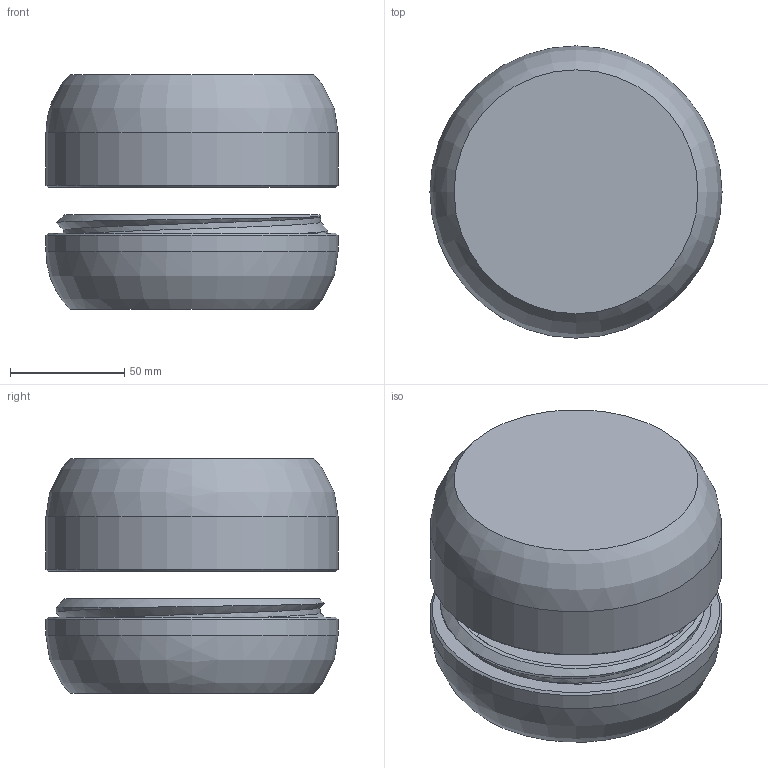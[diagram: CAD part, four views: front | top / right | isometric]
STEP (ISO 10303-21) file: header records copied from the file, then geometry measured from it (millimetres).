
FILE_DESCRIPTION(/* description */ (''),/* implementation_level */ '2;1');
FILE_NAME(/* name */ '',/* time_stamp */ '',/* author */ (''),/* organization */ (''),/* preprocessor_version */ 'ST-DEVELOPER v20',/* originating_system */ 'Autodesk Translation Framework v13.20.0.188',/* authorisation */ '');
FILE_SCHEMA (('AUTOMOTIVE_DESIGN { 1 0 10303 214 3 1 1 }'));
Length unit declared in the file: millimetre
Products named in the file (1): Game Parts Dish
Bounding box: 128 x 128 x 102.91 mm (x, y, z)
Volume: 195662.8 mm3; surface area: 113687.3 mm2
Topology: 2 solids, 2 shells, 38 faces, 89 edges, 59 vertices
Faces by surface type: bspline 12, cone 8, cylinder 8, plane 8, torus 2
Full cylindrical faces by diameter (mm): 106 x2, 128 x2
Entity records: 3777 total; most frequent: CARTESIAN_POINT 2915, ORIENTED_EDGE 178, DIRECTION 157, EDGE_CURVE 89, AXIS2_PLACEMENT_3D 73, VERTEX_POINT 59, CIRCLE 46, EDGE_LOOP 42
